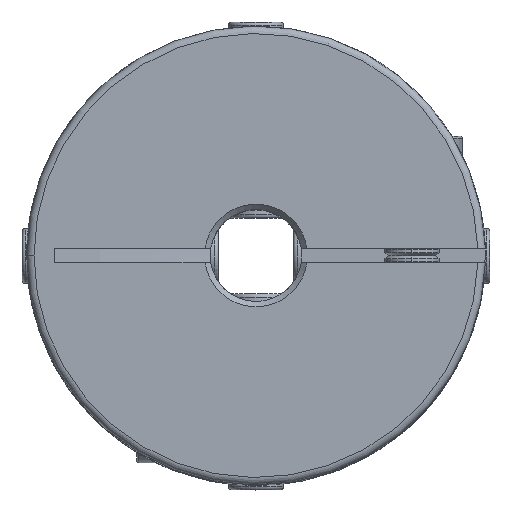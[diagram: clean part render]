
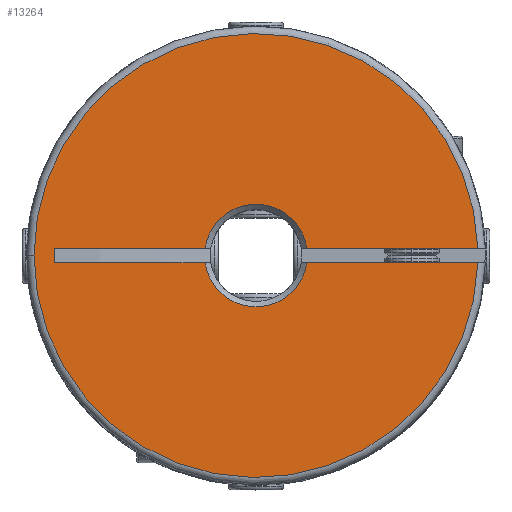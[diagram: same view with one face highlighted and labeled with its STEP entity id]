
A CAD part, top view. The second image highlights one B-rep face of the part: STEP entity #13264.
In plain terms, the highlighted planar face has unit normal (0, 0, 1).
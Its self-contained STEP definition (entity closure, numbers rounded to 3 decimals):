
#1166 = VECTOR ( 'NONE', #6697, 1000. ) ;
#1167 = VECTOR ( 'NONE', #6691, 1000. ) ;
#1168 = AXIS2_PLACEMENT_3D ( 'NONE', #6679, #6705, #6707 ) ;
#1169 = VECTOR ( 'NONE', #6685, 1000. ) ;
#4126 = CARTESIAN_POINT ( 'NONE',  ( 0., 0., 15.2 ) ) ;
#4127 = DIRECTION ( 'NONE',  ( 0., 0., 1. ) ) ;
#4128 = DIRECTION ( 'NONE',  ( -1., 0., 0. ) ) ;
#6673 = CARTESIAN_POINT ( 'NONE',  ( 0., 0., 15.2 ) ) ;
#6675 = DIRECTION ( 'NONE',  ( 0., 0., -1. ) ) ;
#6677 = DIRECTION ( 'NONE',  ( 0., -1., 0. ) ) ;
#6679 = CARTESIAN_POINT ( 'NONE',  ( 0., 0., 15.2 ) ) ;
#6681 = LINE ( 'NONE', #6683, #1169 ) ;
#6683 = CARTESIAN_POINT ( 'NONE',  ( 12.1, -0.4, 15.2 ) ) ;
#6685 = DIRECTION ( 'NONE',  ( -1., 0., 0. ) ) ;
#6687 = LINE ( 'NONE', #6689, #1167 ) ;
#6689 = CARTESIAN_POINT ( 'NONE',  ( 12.1, -0.4, 15.2 ) ) ;
#6691 = DIRECTION ( 'NONE',  ( -1., 0., 0. ) ) ;
#6693 = LINE ( 'NONE', #6695, #1166 ) ;
#6695 = CARTESIAN_POINT ( 'NONE',  ( -11., 0.4, 15.2 ) ) ;
#6697 = DIRECTION ( 'NONE',  ( 0., -1., 0. ) ) ;
#6699 = LINE ( 'NONE', #6701, #8237 ) ;
#6701 = CARTESIAN_POINT ( 'NONE',  ( 12.1, 0.4, 15.2 ) ) ;
#6703 = DIRECTION ( 'NONE',  ( -1., 0., 0. ) ) ;
#6705 = DIRECTION ( 'NONE',  ( 0., 0., -1. ) ) ;
#6707 = DIRECTION ( 'NONE',  ( 0., -1., 0. ) ) ;
#6709 = CARTESIAN_POINT ( 'NONE',  ( 0., 0., 15.2 ) ) ;
#6711 = LINE ( 'NONE', #6713, #15056 ) ;
#6713 = CARTESIAN_POINT ( 'NONE',  ( 12.1, 0.4, 15.2 ) ) ;
#6715 = DIRECTION ( 'NONE',  ( -1., 0., 0. ) ) ;
#6717 = DIRECTION ( 'NONE',  ( 0., 0., 1. ) ) ;
#6719 = DIRECTION ( 'NONE',  ( -1., 0., 0. ) ) ;
#7599 = CIRCLE ( 'NONE', #12890, 12.1 ) ;
#8237 = VECTOR ( 'NONE', #6703, 1000. ) ;
#8248 = EDGE_LOOP ( 'NONE', ( #9379, #9383, #9382, #9384, #9385, #9386, #9387, #9388, #9389 ) ) ;
#9379 = ORIENTED_EDGE ( 'NONE', *, *, #9635, .T. ) ;
#9382 = ORIENTED_EDGE ( 'NONE', *, *, #9636, .T. ) ;
#9383 = ORIENTED_EDGE ( 'NONE', *, *, #9634, .T. ) ;
#9384 = ORIENTED_EDGE ( 'NONE', *, *, #9637, .F. ) ;
#9385 = ORIENTED_EDGE ( 'NONE', *, *, #9638, .F. ) ;
#9386 = ORIENTED_EDGE ( 'NONE', *, *, #9639, .T. ) ;
#9387 = ORIENTED_EDGE ( 'NONE', *, *, #9640, .F. ) ;
#9388 = ORIENTED_EDGE ( 'NONE', *, *, #13794, .T. ) ;
#9389 = ORIENTED_EDGE ( 'NONE', *, *, #9641, .T. ) ;
#9634 = EDGE_CURVE ( 'NONE', #13998, #13997, #10344, .T. ) ;
#9635 = EDGE_CURVE ( 'NONE', #13999, #13998, #6681, .T. ) ;
#9636 = EDGE_CURVE ( 'NONE', #13997, #13996, #6687, .T. ) ;
#9637 = EDGE_CURVE ( 'NONE', #13995, #13996, #6693, .T. ) ;
#9638 = EDGE_CURVE ( 'NONE', #13994, #13995, #6699, .T. ) ;
#9639 = EDGE_CURVE ( 'NONE', #13994, #13993, #10345, .T. ) ;
#9640 = EDGE_CURVE ( 'NONE', #13925, #13993, #6711, .T. ) ;
#9641 = EDGE_CURVE ( 'NONE', #13926, #13999, #10346, .T. ) ;
#10344 = CIRCLE ( 'NONE', #21388, 2.8 ) ;
#10345 = CIRCLE ( 'NONE', #1168, 2.8 ) ;
#10346 = CIRCLE ( 'NONE', #21384, 12.1 ) ;
#12890 = AXIS2_PLACEMENT_3D ( 'NONE', #4126, #4127, #4128 ) ;
#13264 = ADVANCED_FACE ( 'NONE', ( #16100 ), #19338, .T. ) ;
#13794 = EDGE_CURVE ( 'NONE', #13925, #13926, #7599, .T. ) ;
#13925 = VERTEX_POINT ( 'NONE', #19910 ) ;
#13926 = VERTEX_POINT ( 'NONE', #19911 ) ;
#13993 = VERTEX_POINT ( 'NONE', #19978 ) ;
#13994 = VERTEX_POINT ( 'NONE', #19979 ) ;
#13995 = VERTEX_POINT ( 'NONE', #19980 ) ;
#13996 = VERTEX_POINT ( 'NONE', #19981 ) ;
#13997 = VERTEX_POINT ( 'NONE', #19982 ) ;
#13998 = VERTEX_POINT ( 'NONE', #19983 ) ;
#13999 = VERTEX_POINT ( 'NONE', #19984 ) ;
#15056 = VECTOR ( 'NONE', #6715, 1000. ) ;
#16100 = FACE_OUTER_BOUND ( 'NONE', #8248, .T. ) ;
#16105 = AXIS2_PLACEMENT_3D ( 'NONE', #19339, #19340, #19341 ) ;
#19338 = PLANE ( 'NONE',  #16105 ) ;
#19339 = CARTESIAN_POINT ( 'NONE',  ( 0., 0., 15.2 ) ) ;
#19340 = DIRECTION ( 'NONE',  ( 0., 0., 1. ) ) ;
#19341 = DIRECTION ( 'NONE',  ( -1., 0., 0. ) ) ;
#19910 = CARTESIAN_POINT ( 'NONE',  ( 12.093, 0.4, 15.2 ) ) ;
#19911 = CARTESIAN_POINT ( 'NONE',  ( -12.1, 0., 15.2 ) ) ;
#19978 = CARTESIAN_POINT ( 'NONE',  ( 2.771, 0.4, 15.2 ) ) ;
#19979 = CARTESIAN_POINT ( 'NONE',  ( -2.771, 0.4, 15.2 ) ) ;
#19980 = CARTESIAN_POINT ( 'NONE',  ( -11., 0.4, 15.2 ) ) ;
#19981 = CARTESIAN_POINT ( 'NONE',  ( -11., -0.4, 15.2 ) ) ;
#19982 = CARTESIAN_POINT ( 'NONE',  ( -2.771, -0.4, 15.2 ) ) ;
#19983 = CARTESIAN_POINT ( 'NONE',  ( 2.771, -0.4, 15.2 ) ) ;
#19984 = CARTESIAN_POINT ( 'NONE',  ( 12.093, -0.4, 15.2 ) ) ;
#21384 = AXIS2_PLACEMENT_3D ( 'NONE', #6709, #6717, #6719 ) ;
#21388 = AXIS2_PLACEMENT_3D ( 'NONE', #6673, #6675, #6677 ) ;
